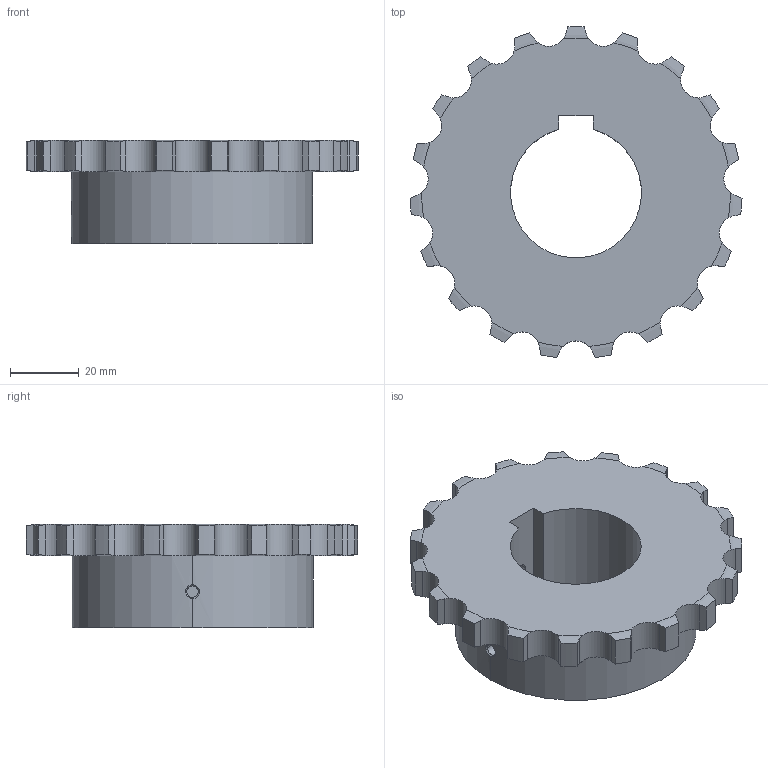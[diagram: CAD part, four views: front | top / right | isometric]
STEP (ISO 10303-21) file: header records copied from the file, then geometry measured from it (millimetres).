
FILE_DESCRIPTION((''),'2;1');
FILE_NAME('510-301-3819_PRT','2021-02-13T',('Brieden'),('Brieden'),'PRO/ENGINEER BY PARAMETRIC TECHNOLOGY CORPORATION, 2010160','PRO/ENGINEER BY PARAMETRIC TECHNOLOGY CORPORATION, 2010160','');
FILE_SCHEMA(('AUTOMOTIVE_DESIGN { 1 0 10303 214 1 1 1 1 }'));
Length unit declared in the file: millimetre
Products named in the file (1): 510-301-3819_PRT
Bounding box: 96.4 x 96.12 x 30 mm (x, y, z)
Volume: 104431.3 mm3; surface area: 22829.6 mm2
Topology: 1 solids, 1 shells, 134 faces, 387 edges, 256 vertices
Faces by surface type: cylinder 83, torus 38, plane 7, bspline 6
Entity records: 6470 total; most frequent: CARTESIAN_POINT 1930, ORIENTED_EDGE 774, DIRECTION 603, PRESENTATION_STYLE_ASSIGNMENT 388, STYLED_ITEM 388, CURVE_STYLE 387, EDGE_CURVE 387, VERTEX_POINT 256
